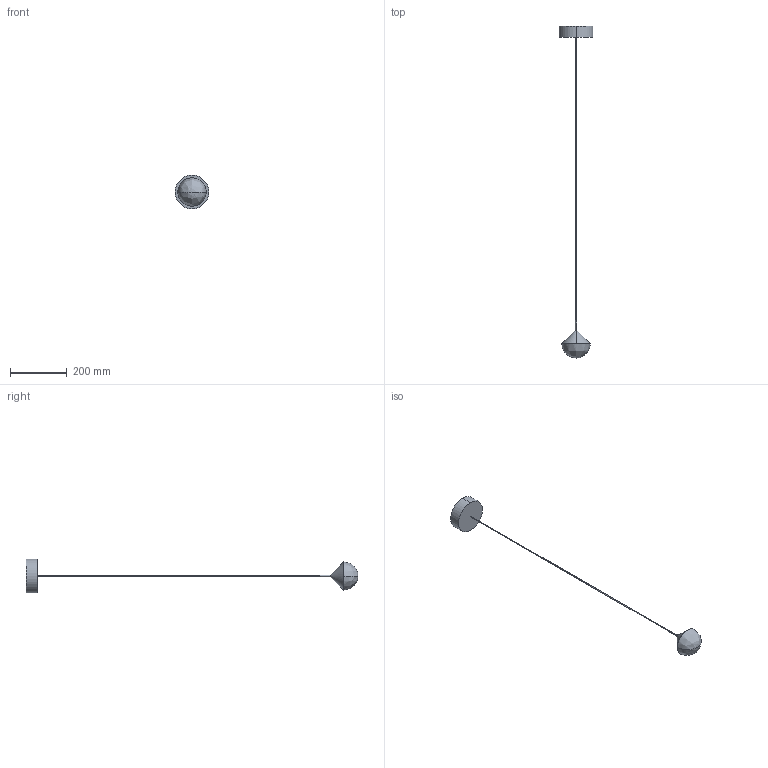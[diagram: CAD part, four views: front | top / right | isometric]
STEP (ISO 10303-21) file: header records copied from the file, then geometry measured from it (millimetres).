
FILE_DESCRIPTION (( 'STEP AP214' ), '1' );
FILE_NAME ('CU1275_NINO.STEP', '2026-06-05T07:32:50', ( '' ), ( '' ), 'SwSTEP 2.0', 'SolidWorks 2023', '' );
FILE_SCHEMA (( 'AUTOMOTIVE_DESIGN' ));
Length unit declared in the file: inch
Products named in the file (1): CU1275_NINO
Bounding box: 119.89 x 1174.88 x 119.89 mm (x, y, z)
Volume: 637706.3 mm3; surface area: 111745.5 mm2
Topology: 4 solids, 4 shells, 33 faces, 66 edges, 42 vertices
Faces by surface type: bspline 29, cylinder 2, plane 2
Entity records: 1482 total; most frequent: CARTESIAN_POINT 980, ORIENTED_EDGE 124, EDGE_CURVE 62, VERTEX_POINT 42, B_SPLINE_CURVE_WITH_KNOTS 39, EDGE_LOOP 38, ADVANCED_FACE 33, FACE_OUTER_BOUND 33
